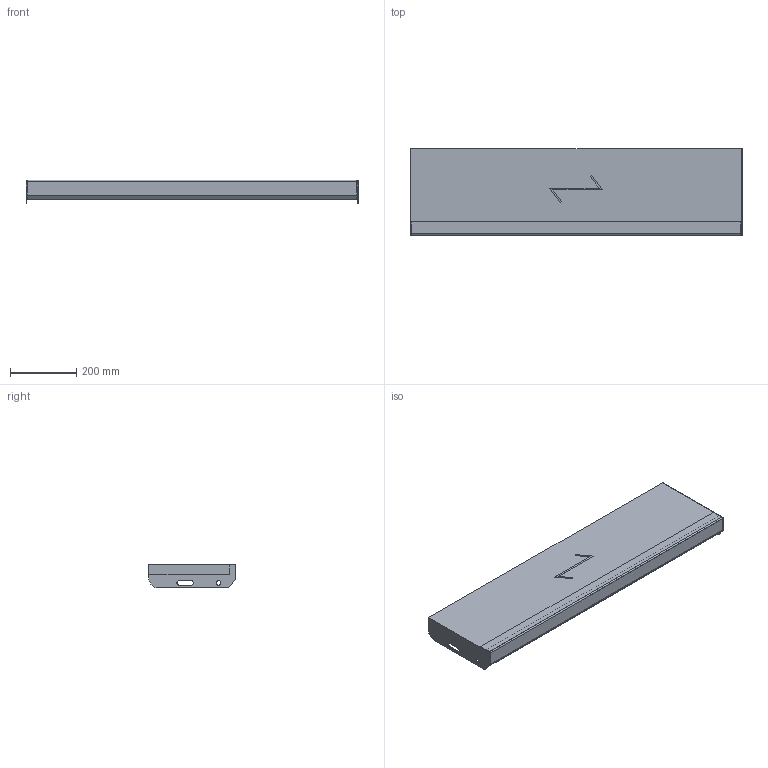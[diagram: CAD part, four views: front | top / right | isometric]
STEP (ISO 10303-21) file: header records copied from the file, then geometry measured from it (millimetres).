
FILE_DESCRIPTION (( 'STEP AP203' ), '1' );
FILE_NAME ('StegTH6-S-nya_steget-1000x260.STEP', '2020-03-04T07:44:29', ( '' ), ( '' ), 'SwSTEP 2.0', 'SolidWorks 2019', '' );
FILE_SCHEMA (( 'CONFIG_CONTROL_DESIGN' ));
Length unit declared in the file: millimetre
Products named in the file (5): StegTH6-S-nya_steget-1000x260; SW0000039246; SW0000038702; SW0000038975; SW0000039540
Assembly tree (5 placements, depth 3):
  StegTH6-S-nya_steget-1000x260
    SW0000039540
      SW0000038975
      SW0000039246
      SW0000038702  x2
Bounding box: 1000 x 260 x 72 mm (x, y, z)
Volume: 7542861.5 mm3; surface area: 829237.9 mm2
Topology: 4 solids, 4 shells, 67 faces, 158 edges, 100 vertices
Faces by surface type: plane 51, cylinder 16
Entity records: 2002 total; most frequent: DIRECTION 261, CARTESIAN_POINT 254, ORIENTED_EDGE 238, EDGE_CURVE 119, LINE 99, VECTOR 99, AXIS2_PLACEMENT_3D 81, VERTEX_POINT 74
